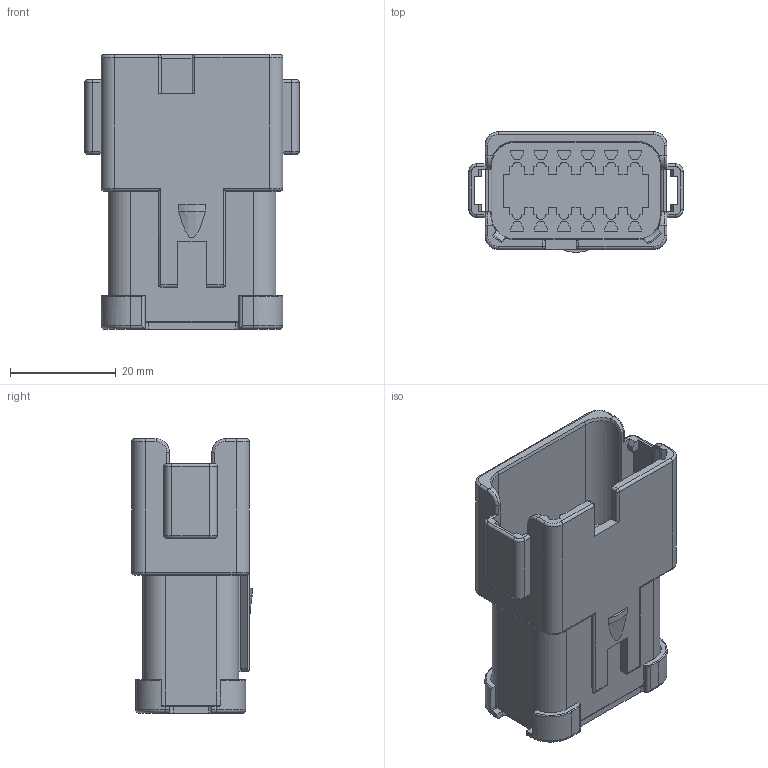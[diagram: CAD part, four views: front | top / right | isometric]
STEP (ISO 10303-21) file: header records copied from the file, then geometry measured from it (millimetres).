
FILE_DESCRIPTION((''),'2;1');
FILE_NAME('C-DT04-12PA-BE03','2013-05-10T',('workeradm'),('Tyco Electronics Ltd.'),'PRO/ENGINEER BY PARAMETRIC TECHNOLOGY CORPORATION, 2011490','PRO/ENGINEER BY PARAMETRIC TECHNOLOGY CORPORATION, 2011490','');
FILE_SCHEMA(('AUTOMOTIVE_DESIGN { 1 0 10303 214 1 1 1 1 }'));
Length unit declared in the file: millimetre
Products named in the file (1): C-DT04-12PA-BE03
Bounding box: 40.56 x 22.76 x 51.89 mm (x, y, z)
Volume: 19886 mm3; surface area: 11304 mm2
Topology: 1 solids, 1 shells, 671 faces, 1757 edges, 1130 vertices
Faces by surface type: plane 409, cylinder 179, torus 62, cone 11, bspline 8, sphere 2
Entity records: 23998 total; most frequent: CARTESIAN_POINT 6949, ORIENTED_EDGE 3514, DIRECTION 3432, EDGE_CURVE 1757, VECTOR 1258, LINE 1258, VERTEX_POINT 1130, AXIS2_PLACEMENT_3D 1087
